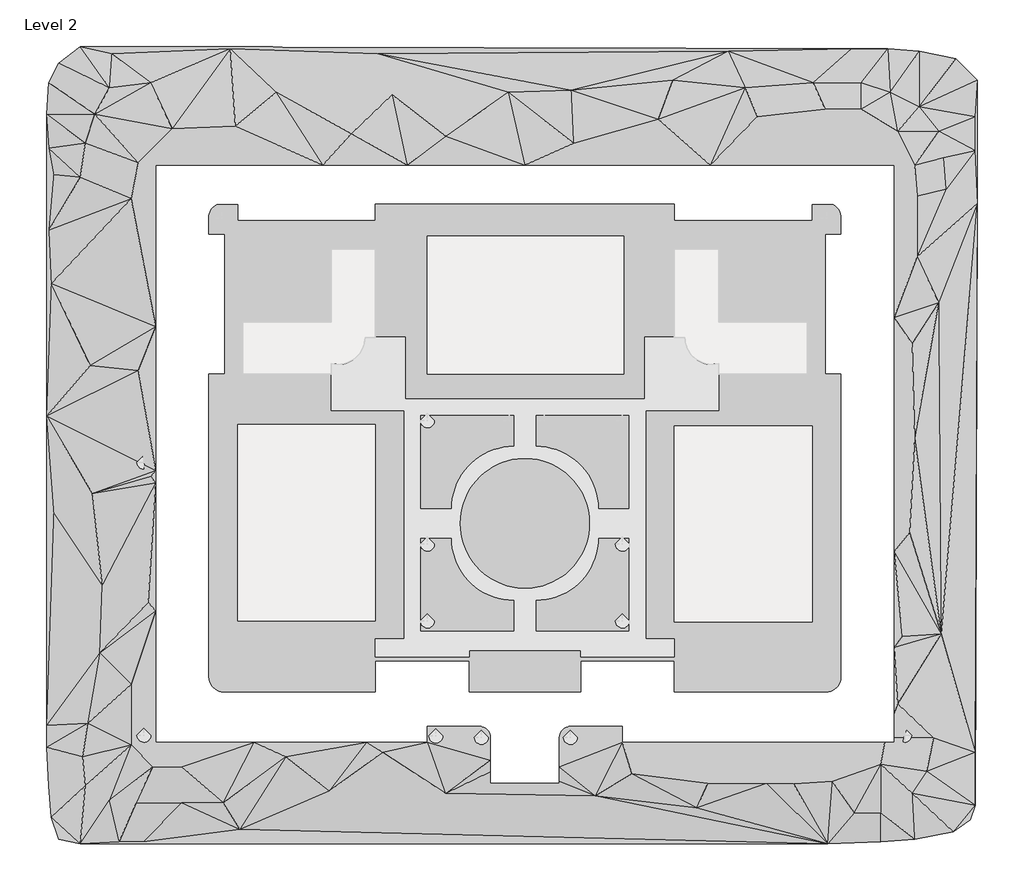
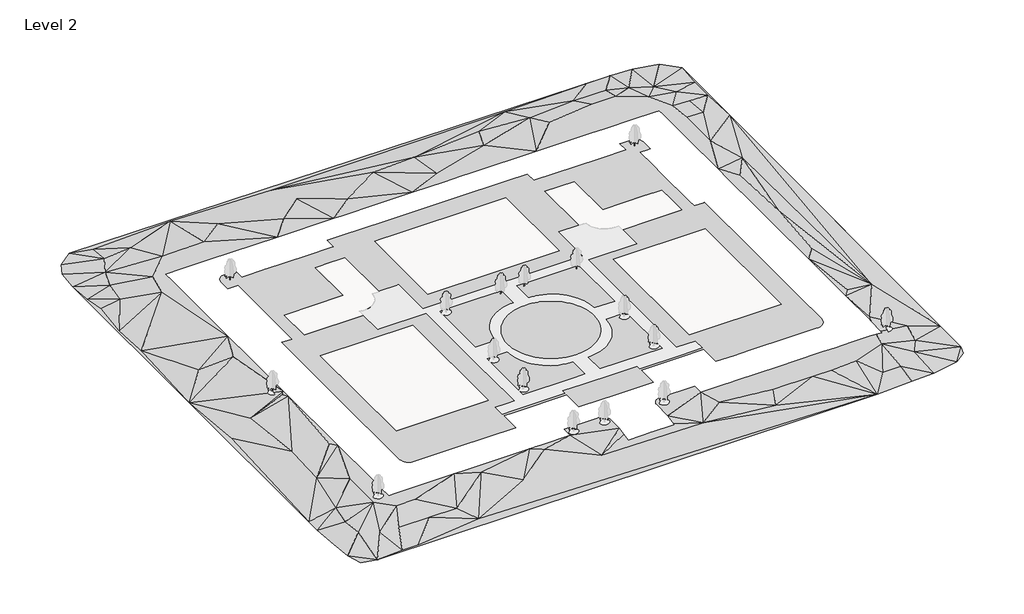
# One storey, part 2 of 3: 1 proxy.
"""IFC4 building model written with IfcOpenShell, lengths in millimetres."""

import ifcopenshell
import ifcopenshell.guid

model = None  # the IFC model being written
_history = None  # IfcOwnerHistory: only IFC2X3 demands one
_inside = {}  # id of a spatial element -> (the spatial element, [elements in it])
_under = {}  # id of a project, library or spatial element -> (it, [spatial elements below it])
_declared = {}  # id of a project -> (the project, [libraries it declares])
_typed = {}  # id of a type object -> (the type object, [elements of that type])
_made_of = {}  # id of a material, layer set ... -> (it, [elements and type objects made of it])


def new_model(schema):
    """Start an empty IFC model of exactly this schema.

    Asked for "IFC4X3", IfcOpenShell would pick the latest addendum, in which some entities
    have other attributes; the version numbers below select the first issue.
    IFC2X3 requires an IfcOwnerHistory on every rooted entity: one is made here for all.
    """
    global model, _history
    if schema == "IFC4X3":
        model = ifcopenshell.file(schema_version=(4, 3, 0, 0))
    else:
        model = ifcopenshell.file(schema=schema)
    _inside.clear()
    _under.clear()
    _declared.clear()
    _typed.clear()
    _made_of.clear()
    _history = None
    if model.schema == "IFC2X3":
        org = make("IfcOrganization", Name="unknown")
        user = make(
            "IfcPersonAndOrganization",
            ThePerson=make("IfcPerson", FamilyName="unknown"),
            TheOrganization=org,
        )
        app = make(
            "IfcApplication",
            ApplicationDeveloper=org,
            Version="unknown",
            ApplicationFullName="unknown",
            ApplicationIdentifier="unknown",
        )
        _history = make(
            "IfcOwnerHistory",
            OwningUser=user,
            OwningApplication=app,
            ChangeAction="ADDED",
            CreationDate=0,
        )
    return model


def make(cls, **values):
    """One entity of the class cls with the attributes given. An attribute that is None is left unset."""
    return model.create_entity(
        cls, **{name: value for name, value in values.items() if value is not None}
    )


def rooted(cls, **values):
    """An entity with a GlobalId (a new one), such as an element, a storey or a relation."""
    return make(cls, GlobalId=ifcopenshell.guid.new(), OwnerHistory=_history, **values)


def si_unit(unit_type, name, prefix=None):
    """IfcSIUnit, for example si_unit("LENGTHUNIT", "METRE", prefix="MILLI")."""
    return make("IfcSIUnit", UnitType=unit_type, Prefix=prefix, Name=name)


def assignment(units):
    """IfcUnitAssignment: the units of a project."""
    return None if units is None else make("IfcUnitAssignment", Units=units)


def point(xyz):
    """IfcCartesianPoint."""
    return None if xyz is None else make("IfcCartesianPoint", Coordinates=xyz)


def direction(xyz):
    """IfcDirection."""
    return None if xyz is None else make("IfcDirection", DirectionRatios=xyz)


def frame(location, z_axis=None, x_axis=None):
    """IfcAxis2Placement3D, a coordinate frame: its origin and axes. An axis left out is left unset."""
    return make(
        "IfcAxis2Placement3D",
        Location=point(location),
        Axis=direction(z_axis),
        RefDirection=direction(x_axis),
    )


def origin():
    """The frame at (0, 0, 0) with its axes left unset."""
    return frame((0.0, 0.0, 0.0))


def place(relative_to, where):
    """IfcLocalPlacement: puts the frame where relative to a parent placement (None: the world)."""
    return make(
        "IfcLocalPlacement", PlacementRelTo=relative_to, RelativePlacement=where
    )


def context(
    kind, dimensions, precision=None, world=None, true_north=None, identifier=None
):
    """IfcGeometricRepresentationContext, for example the 3D "Model" context."""
    return make(
        "IfcGeometricRepresentationContext",
        ContextIdentifier=identifier,
        ContextType=kind,
        CoordinateSpaceDimension=dimensions,
        Precision=precision,
        WorldCoordinateSystem=world,
        TrueNorth=true_north,
    )


def project(units=None, contexts=None):
    """IfcProject with its units and contexts."""
    return rooted(
        "IfcProject",
        Name="project",
        RepresentationContexts=contexts,
        UnitsInContext=assignment(units),
    )


def spatial(cls, under=None, at=None, **own):
    """A site, building, storey or space (cls), placed at a placement, below another one or the project."""
    s = rooted(cls, ObjectPlacement=at, **own)
    if under is not None:
        _under.setdefault(under.id(), (under, []))[1].append(s)
    return s


def point_list(points):
    """IfcCartesianPointList2D or 3D."""
    cls = (
        "IfcCartesianPointList2D" if len(points[0]) == 2 else "IfcCartesianPointList3D"
    )
    return make(cls, CoordList=points)


def triangles(points, corners, closed=None, point_numbers=None):
    """IfcTriangulatedFaceSet: each triangle names its three corners, points numbered from 1."""
    return make(
        "IfcTriangulatedFaceSet",
        Coordinates=point_list(points),
        Closed=closed,
        CoordIndex=corners,
        PnIndex=point_numbers,
    )


def shape(context_of_items, identifier, shape_type, items):
    """IfcShapeRepresentation: the items that make up one representation, for example the "Body"."""
    return make(
        "IfcShapeRepresentation",
        ContextOfItems=context_of_items,
        RepresentationIdentifier=identifier,
        RepresentationType=shape_type,
        Items=items,
    )


def made_of(thing, what):
    """Note that an element or type object is made of a material, layer set ...; save() writes the relation."""
    if what is not None:
        _made_of.setdefault(what.id(), (what, []))[1].append(thing)
    return thing


def element(
    cls,
    number,
    at=None,
    inside=None,
    cuts=None,
    type_object=None,
    material=None,
    context=None,
    identifier="Body",
    shape_type=None,
    held_by="IfcProductDefinitionShape",
    body=None,
    shapes=None,
    **own,
):
    """One element of the class cls, such as IfcWall. Its Tag is "e" and its number.

    at: its placement. inside: the storey or other place that contains it. cuts: it is an
    opening in that element (IfcRelVoidsElement). A single representation is given by context,
    identifier, shape_type and body (its items); several are given by shapes. held_by: the class
    of the entity that holds the representations. save() writes the other relations.
    """
    e = rooted(cls, Tag="e%d" % number, ObjectPlacement=at, **own)
    if body is not None:
        shapes = [shape(context, identifier, shape_type, body)]
    if shapes is not None:
        e.Representation = make(held_by, Representations=shapes)
    if inside is not None:
        _inside.setdefault(inside.id(), (inside, []))[1].append(e)
    if cuts is not None:
        rooted(
            "IfcRelVoidsElement", RelatingBuildingElement=cuts, RelatedOpeningElement=e
        )
    if type_object is not None:
        _typed.setdefault(type_object.id(), (type_object, []))[1].append(e)
    return made_of(e, material)


def aggregate(whole, parts):
    """IfcRelAggregates: a whole, such as a stair, and the parts it consists of."""
    return rooted("IfcRelAggregates", RelatingObject=whole, RelatedObjects=parts)


def save(model, path):
    """Write the relations noted so far, then the file.

    IfcRelAggregates (storeys below a building ...), IfcRelContainedInSpatialStructure (elements
    in a storey), IfcRelDefinesByType, IfcRelAssociatesMaterial and IfcRelDeclares: one each for
    every whole, place, type object, material and project.
    """
    for whole, parts in _under.values():
        aggregate(whole, parts)
    for where, things in _inside.values():
        rooted(
            "IfcRelContainedInSpatialStructure",
            RelatedElements=things,
            RelatingStructure=where,
        )
    for kind, things in _typed.values():
        rooted("IfcRelDefinesByType", RelatedObjects=things, RelatingType=kind)
    for what, things in _made_of.values():
        rooted("IfcRelAssociatesMaterial", RelatedObjects=things, RelatingMaterial=what)
    for by, libraries in _declared.values():
        rooted("IfcRelDeclares", RelatingContext=by, RelatedDefinitions=libraries)
    model.write(path)


model = new_model("IFC4")

# Units and contexts
model_context = context("Model", 3, world=origin())
ifc_project = project(units=[si_unit("LENGTHUNIT", "METRE", prefix="MILLI")], contexts=[model_context])

# Site, building, storey
site = spatial("IfcSite", under=ifc_project)
building = spatial("IfcBuilding", under=site)
storey = spatial("IfcBuildingStorey", under=building, Name="Level 2", Elevation=3048.0)

# Proxy
placement = place(None, origin())
element("IfcBuildingElementProxy", 1, Name="Building Element Proxy", at=placement, inside=storey, context=model_context, shape_type="Tessellation", body=[
    triangles([(164403.5649902, 10754.2040405, 0.0), (-24915.4652344, 11321.0275818, 0.0), (-30016.8747803, 7353.2639557, 0.0), (-32284.1689453, 2818.676207, 0.0), (-32850.9924866, -4550.0286667, 0.0), (-32850.9924866, -75402.9602783, 0.0), (-32850.9924866, -147956.3642578, 0.0), (-32850.9924866, -153057.7738037, 0.0), (-32284.1689453, -162126.9411621, 0.0), (-31717.3454041, -169495.644873, 0.0), (-30016.8747803, -174597.0637207, 0.0), (-24915.4652344, -175730.7061523, 0.0), (150232.9787842, -175730.7061523, 0.0), (162703.092041, -175163.8942383, 0.0), (170638.6262695, -174597.0637207, 0.0), (179707.8029297, -172896.5907715, 0.0), (183675.5607422, -170062.4753906, 0.0), (184809.2217773, -166661.5294922, 0.0), (185376.0336914, -25522.4956238, 0.0), (185376.0336914, 3385.4994576, 0.0), (180274.6334473, 8486.9104568, 0.0), (171772.2687012, 10187.3804993, 0.0), (-7266.3832123, -16496.7267792, 3048.0), (-1700.1292202, -16496.7267792, 3048.0), (7752.2936691, -16496.7267792, 3048.0), (31912.9892761, -16496.7267792, 3048.0), (51712.4900391, -16496.7267792, 3048.0), (54752.0068359, -16496.7267792, 3048.0), (59976.9251221, -16496.7267792, 3048.0), (61388.4761719, -16496.7267792, 3048.0), (79296.815625, -16496.7267792, 3048.0), (90194.0016357, -16496.7267792, 3048.0), (96662.5742432, -16496.7267792, 3048.0), (99394.528418, -16496.7267792, 3048.0), (122763.6229248, -16496.7267792, 3048.0), (141543.0999023, -16496.7267792, 3048.0), (146744.6149658, -16496.7267792, 3048.0), (156554.8533691, -16496.7267792, 3048.0), (163473.1845703, -16496.7267792, 3048.0), (165860.015625, -16496.7267792, 3048.0), (165860.015625, -18757.931781, 3048.0), (165860.015625, -21149.3090698, 3048.0), (165860.015625, -33295.1095642, 3048.0), (165860.015625, -52212.1944214, 3048.0), (165860.015625, -54667.816626, 3048.0), (165860.015625, -55901.2669189, 3048.0), (165860.015625, -76369.6873169, 3048.0), (165860.015625, -84338.7032227, 3048.0), (165860.015625, -86181.5209717, 3048.0), (165860.015625, -105780.0177246, 3048.0), (165860.015625, -107139.0231445, 3048.0), (165860.015625, -128452.2989502, 3048.0), (165860.015625, -129088.3810547, 3048.0), (165860.015625, -129619.7625732, 3048.0), (165860.015625, -143477.2330078, 3048.0), (165860.015625, -145125.318457, 3048.0), (165860.015625, -150790.4796387, 2776.0046837), (165860.015625, -151827.923291, 2746.1190079), (165096.5087402, -151827.923291, 2848.7607079), (163648.1134277, -151827.923291, 3048.0), (162568.7560547, -151827.923291, 3048.0), (161761.847168, -151827.923291, 3048.0), (154978.8007324, -151827.923291, 3048.0), (149476.9412109, -151827.923291, 3048.0), (144849.2236816, -151827.923291, 3048.0), (134905.5143555, -151827.923291, 3048.0), (129890.4716309, -151827.923291, 3048.0), (114348.815625, -151827.923291, 3048.0), (112904.9223633, -151827.923291, 3048.0), (110603.6953857, -151827.923291, 3048.0), (102156.815625, -151827.923291, 3048.0), (102156.815625, -148170.323291, 3048.0), (89964.815625, -148170.323291, 3048.0), (89460.2510742, -148220.022583, 3048.0), (88975.0806885, -148367.1949951, 3048.0), (88527.9358887, -148606.2036621, 3048.0), (88136.015625, -148927.8398438, 3048.0), (87814.3794434, -149319.7601074, 3048.0), (87575.3707764, -149766.9049072, 3048.0), (87428.1983643, -150252.075293, 3048.0), (87378.4990723, -150756.6398438, 3048.0), (87378.4990723, -157598.6594238, 3048.0), (87378.4990723, -161018.4692871, 2172.3091198), (87378.4990723, -161484.6175781, 2079.0257149), (79296.815625, -161484.6175781, 2052.9405338), (71215.1321777, -161484.6175781, 2026.8552074), (71215.1321777, -158752.4866699, 2573.6016312), (71215.1321777, -156099.1602539, 3048.0), (71215.1321777, -150756.6398438, 3048.0), (71165.4375366, -150252.075293, 3048.0), (71018.2604736, -149766.9049072, 3048.0), (70779.2564575, -149319.7601074, 3048.0), (70457.615625, -148927.8398438, 3048.0), (70065.6953613, -148606.2036621, 3048.0), (69618.5552124, -148367.1949951, 3048.0), (69133.3801758, -148220.022583, 3048.0), (68628.815625, -148170.323291, 3048.0), (56436.815625, -148170.323291, 3048.0), (56436.815625, -151827.923291, 3048.0), (46178.4510864, -151827.923291, 3048.0), (44244.815625, -151827.923291, 3048.0), (43947.1547241, -151827.923291, 3048.0), (42239.7426636, -151827.923291, 3048.0), (20149.888678, -151827.923291, 3048.0), (15803.962088, -151827.923291, 3048.0), (-4669.2658653, -151827.923291, 3048.0), (-7161.5361237, -151827.923291, 3048.0), (-7266.3832123, -151827.923291, 3048.0), (-7266.3832123, -151728.0689209, 3048.0), (-7266.3832123, -147623.0729736, 3048.0), (-7266.3832123, -141013.6996582, 3048.0), (-7266.3832123, -121044.7417969, 3048.0), (-7266.3832123, -120184.8407959, 3048.0), (-7266.3832123, -91011.8493896, 3048.0), (-7266.3832123, -88173.7156494, 3048.0), (-7266.3832123, -61543.5829834, 3048.0), (-7266.3832123, -60128.3019287, 3048.0), (-7266.3832123, -54418.8829834, 3048.0), (-7266.3832123, -20380.1606689, 3048.0), (44244.815625, -77359.8175781, 3048.0), (11936.0167877, -77359.8175781, 3048.0), (11936.0167877, -113814.6993896, 3048.0), (11936.0167877, -123384.6175781, 3048.0), (19994.895813, -123384.6175781, 3048.0), (44244.815625, -123384.6175781, 3048.0), (102461.615625, -65472.6175781, 3048.0), (102461.615625, -33163.8175781, 3048.0), (88501.2491455, -33163.8175781, 3048.0), (63125.9747681, -33163.8175781, 3048.0), (58277.5358276, -33163.8175781, 3048.0), (56436.815625, -33163.8175781, 3048.0), (56436.815625, -51217.0272583, 3048.0), (56436.815625, -65472.6175781, 3048.0), (66494.0715088, -65472.6175781, 3048.0), (85219.8866455, -65472.6175781, 3048.0), (114348.815625, -123689.4175781, 3048.0), (116818.4602295, -123689.4175781, 3048.0), (134288.6217773, -123689.4175781, 3048.0), (145264.2123047, -123689.4175781, 3048.0), (146657.615625, -123689.4175781, 3048.0), (146657.615625, -122477.7613037, 3048.0), (146657.615625, -108994.6308105, 3048.0), (146657.615625, -99746.6185547, 3048.0), (146657.615625, -77664.6175781, 3048.0), (114348.815625, -77664.6175781, 3048.0), (44244.815625, -29473.4800415, 3048.0), (43523.8921875, -29473.4800415, 3048.0), (34722.3084961, -29473.4800415, 3048.0), (20260.3935608, -29473.4800415, 3048.0), (11936.0167877, -29473.4800415, 3048.0), (11936.0167877, -25815.8800415, 3048.0), (7059.2167877, -25815.8800415, 3048.0), (6578.3461395, -26094.2397949, 3048.0), (6152.981987, -26451.713324, 3048.0), (5795.9927307, -26877.4826843, 3048.0), (5518.1794556, -27358.6695923, 3048.0), (5327.9462997, -27880.7167969, 3048.0), (5231.0481445, -28427.8299133, 3048.0), (5230.4167877, -28983.4564636, 3048.0), (5230.4167877, -32641.0564636, 3048.0), (8888.0167877, -32641.0564636, 3048.0), (8888.0167877, -42138.1721191, 3048.0), (8888.0167877, -49205.1826172, 3048.0), (8888.0167877, -65472.6175781, 3048.0), (5230.4167877, -65472.6175781, 3048.0), (5230.4167877, -73730.6949097, 3048.0), (5230.4167877, -105851.7993896, 3048.0), (5230.4167877, -128172.4834717, 3048.0), (5230.4167877, -135076.2388184, 3048.0), (5230.4167877, -136596.9273926, 3048.0), (5272.8729172, -137136.3735352, 3048.0), (5399.1948578, -137662.5460693, 3048.0), (5606.2723343, -138162.469043, 3048.0), (5889.0062393, -138623.854834, 3048.0), (6240.4353699, -139035.3273926, 3048.0), (6651.9061844, -139386.7571045, 3048.0), (7113.2861618, -139669.4840332, 3048.0), (7613.2155304, -139876.5597656, 3048.0), (8139.3839951, -140002.8869385, 3048.0), (8678.8353699, -140045.3401611, 3048.0), (9656.0233978, -140045.3401611, 3048.0), (23805.6980896, -140045.3401611, 3048.0), (34024.9789673, -140045.3401611, 3048.0), (44244.815625, -140045.3401611, 3048.0), (44244.815625, -132730.1401611, 3048.0), (48125.676416, -132730.1401611, 3048.0), (66190.415625, -132730.1401611, 3048.0), (66190.415625, -140045.3401611, 3048.0), (74268.0621094, -140045.3401611, 3048.0), (77646.0931274, -140045.3401611, 3048.0), (79296.815625, -140045.3401611, 3048.0), (92403.215625, -140045.3401611, 3048.0), (92403.215625, -132730.1401611, 3048.0), (105551.2875, -132730.1401611, 3048.0), (114348.815625, -132730.1401611, 3048.0), (114348.815625, -140045.3401611, 3048.0), (120521.4062988, -140045.3401611, 3048.0), (126454.8952881, -140045.3401611, 3048.0), (139374.1253174, -140045.3401611, 3048.0), (149914.8028564, -140045.3401611, 3048.0), (150454.248999, -140002.8869385, 3048.0), (150615.867041, -139964.0893066, 3048.0), (150980.4215332, -139876.5597656, 3048.0), (151480.3445068, -139669.4840332, 3048.0), (151941.7302979, -139386.7571045, 3048.0), (152353.2028564, -139035.3273926, 3048.0), (152704.6232666, -138623.854834, 3048.0), (152975.0997803, -138182.4864258, 3048.0), (152987.3594971, -138162.469043, 3048.0), (153194.4352295, -137662.5460693, 3048.0), (153320.7624023, -137136.3735352, 3048.0), (153363.215625, -136596.9273926, 3048.0), (153363.215625, -122665.1638184, 3048.0), (153363.215625, -116646.8055908, 3048.0), (153363.215625, -101028.1496338, 3048.0), (153363.215625, -94366.0818604, 3048.0), (153363.215625, -65556.8542969, 3048.0), (153363.215625, -65472.6175781, 3048.0), (153265.8634277, -65472.6175781, 3048.0), (149705.615625, -65472.6175781, 3048.0), (149705.615625, -62392.1218872, 3048.0), (149705.615625, -46324.0189453, 3048.0), (149705.615625, -40359.6341675, 3048.0), (149705.615625, -32641.0564636, 3048.0), (152534.9871094, -32641.0564636, 3048.0), (153363.215625, -32641.0564636, 3048.0), (153363.215625, -28983.4564636, 3048.0), (153362.5831055, -28427.8299133, 3048.0), (153265.6866943, -27880.7167969, 3048.0), (153075.4564453, -27358.6695923, 3048.0), (152797.6408447, -26877.4826843, 3048.0), (152440.6486816, -26451.713324, 3048.0), (152015.2885986, -26094.2397949, 3048.0), (151534.415625, -25815.8800415, 3048.0), (147888.0614502, -25815.8800415, 3048.0), (146657.615625, -25815.8800415, 3048.0), (146657.615625, -29473.4800415, 3048.0), (137414.8030518, -29473.4800415, 3048.0), (121283.0249268, -29473.4800415, 3048.0), (114348.815625, -29473.4800415, 3048.0), (114348.815625, -25640.7256165, 3048.0), (107230.645459, -25640.7256165, 3048.0), (89265.3141357, -25640.7256165, 3048.0), (79296.815625, -25640.7256165, 3048.0), (62341.7156616, -25640.7256165, 3048.0), (59044.5959839, -25640.7256165, 3048.0), (46840.1734863, -25640.7256165, 3048.0), (44244.815625, -25640.7256165, 3048.0), (44244.815625, -28640.2797363, 3048.0), (145438.415625, -53280.6175781, 3048.0), (145438.415625, -58699.9333008, 3048.0), (145438.415625, -65472.6175781, 3048.0), (124712.015625, -65472.6175781, 3048.0), (124712.015625, -74007.0175781, 3048.0), (107643.215625, -74007.0175781, 3048.0), (107643.215625, -125158.2488525, 3048.0), (107643.215625, -127596.6488525, 3048.0), (111948.9993164, -127596.6488525, 3048.0), (114348.815625, -127596.6488525, 3048.0), (114348.815625, -131815.7401611, 3048.0), (106690.8737549, -131815.7401611, 3048.0), (92403.215625, -131815.7401611, 3048.0), (92403.215625, -130291.7401611, 3048.0), (79296.815625, -130291.7401611, 3048.0), (78636.6977783, -130291.7401611, 3048.0), (73251.2776611, -130291.7401611, 3048.0), (66190.415625, -130291.7401611, 3048.0), (66190.415625, -131815.7401611, 3048.0), (48218.9079346, -131815.7401611, 3048.0), (44244.815625, -131815.7401611, 3048.0), (44244.815625, -127596.6488525, 3048.0), (48649.090979, -127596.6488525, 3048.0), (50950.415625, -127596.6488525, 3048.0), (50950.415625, -125158.2488525, 3048.0), (50950.415625, -105025.952124, 3048.0), (50950.415625, -74007.0175781, 3048.0), (33881.6179504, -74007.0175781, 3048.0), (33881.6179504, -65472.6175781, 3048.0), (13155.2167877, -65472.6175781, 3048.0), (13155.2167877, -64571.7004761, 3048.0), (13155.2167877, -53280.6175781, 3048.0), (22924.8099976, -53280.6175781, 3048.0), (33881.6179504, -53280.6175781, 3048.0), (33881.6179504, -40617.4184326, 3048.0), (33881.6179504, -36211.8175781, 3048.0), (37693.5573669, -36211.8175781, 3048.0), (44244.815625, -36211.8175781, 3048.0), (44244.815625, -56796.8169067, 3048.0), (51255.215625, -56796.8169067, 3048.0), (51255.215625, -71375.9223633, 3048.0), (54381.4015503, -71375.9223633, 3048.0), (67109.4758057, -71375.9223633, 3048.0), (79296.815625, -71375.9223633, 3048.0), (84620.3325439, -71375.9223633, 3048.0), (107338.415625, -71375.9223633, 3048.0), (107338.415625, -56796.8169067, 3048.0), (114348.815625, -56796.8169067, 3048.0), (114348.815625, -36211.8175781, 3048.0), (119448.0485596, -36211.8175781, 3048.0), (124712.015625, -36211.8175781, 3048.0), (124712.015625, -40766.4558472, 3048.0), (124712.015625, -53280.6175781, 3048.0), (139175.1049072, -53280.6175781, 3048.0), (118986.5232422, -61651.1531616, 3048.0), (118448.2398193, -61123.6086182, 3048.0), (118965.1012939, -61672.533252, 3048.0), (119562.3299561, -62161.4010864, 3048.0), (120217.7039063, -62569.0366699, 3048.0), (120920.2284668, -62888.621814, 3048.0), (121658.1462158, -63114.7940552, 3048.0), (122419.0951172, -63243.7629272, 3048.0), (123190.3317627, -63273.3797241, 3048.0), (123958.926709, -63203.1375, 3048.0), (124712.015625, -63034.2175781, 3048.0), (123959.9219971, -63172.3579834, 3048.0), (123196.7127686, -63219.7643921, 3048.0), (122433.2989014, -63175.7484741, 3048.0), (121680.6006592, -63040.9473999, 3048.0), (120949.3615723, -62817.2819824, 3048.0), (120250.0368164, -62507.9566772, 3048.0), (119592.6257813, -62117.3851685, 3048.0), (118436.0080078, -61110.6233643, 3048.0), (118436.9195801, -61111.5860962, 3048.0), (118434.7801758, -61108.9211426, 3048.0), (33881.6179504, -63034.2175781, 3048.0), (34634.7068665, -63203.1375, 3048.0), (35403.3041382, -63273.3797241, 3048.0), (36174.5384583, -63243.7629272, 3048.0), (36935.4873596, -63114.7940552, 3048.0), (37673.4051086, -62888.621814, 3048.0), (38375.9319946, -62569.0366699, 3048.0), (39031.3012939, -62161.4010864, 3048.0), (39628.5299561, -61672.533252, 3048.0), (40145.3960815, -61123.6086182, 3048.0), (39607.1080078, -61651.1531616, 3048.0), (39001.0054688, -62117.3851685, 3048.0), (38343.596759, -62507.9566772, 3048.0), (37644.2743286, -62817.2819824, 3048.0), (36913.0375671, -63040.9473999, 3048.0), (36160.3346741, -63175.7484741, 3048.0), (35396.9231323, -63219.7643921, 3048.0), (34633.7139038, -63172.3579834, 3048.0), (40157.6232422, -61110.6233643, 3048.0), (40158.8510742, -61108.9211426, 3048.0), (40156.7163208, -61111.5860962, 3048.0), (64056.815625, -100524.6175781, 3048.0), (64106.2358643, -101750.9241211, 3048.0), (64254.1710205, -102969.2869629, 3048.0), (64499.6630127, -104171.7903076, 3048.0), (64841.1212402, -105350.6392822, 3048.0), (65276.3318848, -106498.1878418, 3048.0), (65802.4672119, -107606.9945801, 3048.0), (66416.1181274, -108669.87854, 3048.0), (67113.3081299, -109679.9285156, 3048.0), (67889.5119141, -110630.6053711, 3048.0), (68739.697229, -111515.742041, 3048.0), (69658.3481323, -112329.5993408, 3048.0), (70639.511499, -113066.8938721, 3048.0), (71513.2349121, -113619.3996826, 3048.0), (71676.815625, -113722.8445312, 3048.0), (72763.5446411, -114293.200415, 3048.0), (73892.6385132, -114774.2594238, 3048.0), (75056.7814087, -115162.9147705, 3048.0), (76248.4249512, -115456.6270752, 3048.0), (77459.8393799, -115653.4987793, 3048.0), (78683.1600586, -115752.255542, 3048.0), (79910.4711914, -115752.255542, 3048.0), (80115.0354492, -115735.7449219, 3048.0), (81133.7918701, -115653.4987793, 3048.0), (82345.2062988, -115456.6270752, 3048.0), (83536.8544922, -115162.9147705, 3048.0), (84700.9973877, -114774.2594238, 3048.0), (85830.0912598, -114293.200415, 3048.0), (86916.815625, -113722.8445312, 3048.0), (87954.119751, -113066.8938721, 3048.0), (88935.2877686, -112329.5993408, 3048.0), (89853.9386719, -111515.742041, 3048.0), (90704.1193359, -110630.6053711, 3048.0), (91480.3231201, -109679.9285156, 3048.0), (92177.5177734, -108669.87854, 3048.0), (92791.1640381, -107606.9945801, 3048.0), (93317.2993652, -106498.1878418, 3048.0), (93752.5100098, -105350.6392822, 3048.0), (94093.9682373, -104171.7903076, 3048.0), (94339.4602295, -102969.2869629, 3048.0), (94487.3953857, -101750.9241211, 3048.0), (94536.815625, -100524.6175781, 3048.0), (94487.3953857, -99298.3017334, 3048.0), (94339.4602295, -98079.9481934, 3048.0), (94093.9682373, -96877.4448486, 3048.0), (93752.5100098, -95698.595874, 3048.0), (93317.2993652, -94551.0473145, 3048.0), (92791.1640381, -93442.2312744, 3048.0), (92177.5177734, -92379.3566162, 3048.0), (91480.3231201, -91369.3066406, 3048.0), (90704.1193359, -90418.6297852, 3048.0), (89853.9386719, -89533.4931152, 3048.0), (88935.2877686, -88719.6358154, 3048.0), (87954.119751, -87982.3412842, 3048.0), (86916.815625, -87326.390625, 3048.0), (85830.0912598, -86756.0347412, 3048.0), (84700.9973877, -86274.9664307, 3048.0), (83536.8544922, -85886.3203857, 3048.0), (83156.1521484, -85792.4842529, 3048.0), (82345.2062988, -85592.6080811, 3048.0), (81133.7918701, -85395.736377, 3048.0), (79910.4711914, -85296.9796143, 3048.0), (78683.1600586, -85296.9796143, 3048.0), (77459.8393799, -85395.736377, 3048.0), (76248.4249512, -85592.6080811, 3048.0), (75056.7814087, -85886.3203857, 3048.0), (73892.6385132, -86274.9664307, 3048.0), (72763.5446411, -86756.0347412, 3048.0), (71676.815625, -87326.390625, 3048.0), (70639.511499, -87982.3412842, 3048.0), (69658.3481323, -88719.6358154, 3048.0), (68980.1430176, -89320.4735596, 3048.0), (68739.697229, -89533.4931152, 3048.0), (67889.5119141, -90418.6297852, 3048.0), (67113.3081299, -91369.3066406, 3048.0), (66416.1181274, -92379.3566162, 3048.0), (65802.4672119, -93442.2312744, 3048.0), (65276.3318848, -94551.0473145, 3048.0), (64841.1212402, -95698.595874, 3048.0), (64499.6630127, -96877.4448486, 3048.0), (64254.1710205, -98079.9481934, 3048.0), (64106.2358643, -99298.3017334, 3048.0), (81849.3667969, -75146.6084839, 3048.0), (81849.3667969, -82461.803833, 3048.0), (83057.5349121, -82511.772876, 3048.0), (83483.9460937, -82564.9324219, 3048.0), (84257.4523682, -82661.3451416, 3048.0), (85440.9243164, -82909.4974365, 3048.0), (86599.8489258, -83254.5182373, 3048.0), (87726.3383057, -83694.0728027, 3048.0), (88812.6719971, -84225.156665, 3048.0), (89851.436499, -84844.1235352, 3048.0), (90835.5438721, -85546.7690186, 3048.0), (91758.2689453, -86328.2748047, 3048.0), (92613.305127, -87183.3016846, 3048.0), (93394.8109131, -88106.0267578, 3048.0), (94097.4470947, -89090.1341309, 3048.0), (94716.4232666, -90128.9079346, 3048.0), (95247.4978271, -91215.241626, 3048.0), (95687.0523926, -92341.7217041, 3048.0), (96032.0824951, -93500.6556152, 3048.0), (96280.23479, -94684.1182617, 3048.0), (96429.7977539, -95884.0357178, 3048.0), (96479.7667969, -97092.203833, 3048.0), (103794.9667969, -97092.203833, 3048.0), (103794.9667969, -75146.6084839, 3048.0), (84237.369873, -75146.6084839, 3048.0), (76744.2644531, -75146.6084839, 3048.0), (67502.5587891, -75146.6084839, 3048.0), (54798.6644531, -75146.6084839, 3048.0), (54798.6644531, -97092.203833, 3048.0), (62113.8644531, -97092.203833, 3048.0), (62163.8334961, -95884.0357178, 3048.0), (62313.4057617, -94684.1182617, 3048.0), (62561.5487549, -93500.6556152, 3048.0), (62906.5788574, -92341.7217041, 3048.0), (63346.1334229, -91215.241626, 3048.0), (63877.2126343, -90128.9079346, 3048.0), (64496.1841553, -89090.1341309, 3048.0), (65198.8249878, -88106.0267578, 3048.0), (65980.3307739, -87183.3016846, 3048.0), (66835.3623047, -86328.2748047, 3048.0), (67758.0873779, -85546.7690186, 3048.0), (68529.3379761, -84996.1049561, 3048.0), (68742.194751, -84844.1235352, 3048.0), (69780.9639038, -84225.156665, 3048.0), (70867.2975952, -83694.0728027, 3048.0), (71993.7823242, -83254.5182373, 3048.0), (73152.7115845, -82909.4974365, 3048.0), (74336.1788818, -82661.3451416, 3048.0), (75536.0963379, -82511.772876, 3048.0), (76744.2644531, -82461.803833, 3048.0), (76744.2644531, -125902.6220215, 3048.0), (76744.2644531, -118587.4220215, 3048.0), (75536.0963379, -118537.4529785, 3048.0), (74336.1788818, -118387.8900146, 3048.0), (73152.7115845, -118139.7377197, 3048.0), (71993.7823242, -117794.7076172, 3048.0), (71946.5805542, -117776.2901367, 3048.0), (70867.2975952, -117355.1530518, 3048.0), (69780.9639038, -116824.0784912, 3048.0), (68742.194751, -116205.1023193, 3048.0), (67758.0873779, -115502.4661377, 3048.0), (66835.3623047, -114720.9603516, 3048.0), (65980.3307739, -113865.9241699, 3048.0), (65198.8249878, -112943.2083984, 3048.0), (64496.1841553, -111959.1010254, 3048.0), (63877.2126343, -110920.3272217, 3048.0), (63346.1334229, -109833.9935303, 3048.0), (62906.5788574, -108707.5134521, 3048.0), (62561.5487549, -107548.579541, 3048.0), (62313.4057617, -106365.1075928, 3048.0), (62163.8334961, -105165.1994385, 3048.0), (62113.8644531, -103957.0220215, 3048.0), (54798.6644531, -103957.0220215, 3048.0), (54798.6644531, -125902.6220215, 3048.0), (72793.7288452, -125902.6220215, 3048.0), (81849.3667969, -125902.6220215, 3048.0), (103794.9667969, -125902.6220215, 3048.0), (103794.9667969, -103957.0220215, 3048.0), (96479.7667969, -103957.0220215, 3048.0), (96429.7977539, -105165.1994385, 3048.0), (96280.23479, -106365.1075928, 3048.0), (96032.0824951, -107548.579541, 3048.0), (95687.0523926, -108707.5134521, 3048.0), (95247.4978271, -109833.9935303, 3048.0), (94716.4232666, -110920.3272217, 3048.0), (94097.4470947, -111959.1010254, 3048.0), (93394.8109131, -112943.2083984, 3048.0), (92613.305127, -113865.9241699, 3048.0), (91758.2689453, -114720.9603516, 3048.0), (90835.5438721, -115502.4661377, 3048.0), (89851.436499, -116205.1023193, 3048.0), (88812.6719971, -116824.0784912, 3048.0), (87726.3383057, -117355.1530518, 3048.0), (86599.8489258, -117794.7076172, 3048.0), (85440.9243164, -118139.7377197, 3048.0), (84257.4523682, -118387.8900146, 3048.0), (83057.5349121, -118537.4529785, 3048.0), (81849.3667969, -118587.4220215, 3048.0), (-17546.759198, 9620.5575394, 0.0), (10227.5896729, 10754.2040405, 0.0), (44803.8187134, 9620.5575394, 0.0), (126993.2252197, 10187.3804993, 0.0), (155901.2188477, 10754.2040405, 0.0), (184809.2217773, -5116.8522079, 0.0), (184809.2217773, -13052.3812042, 0.0), (184809.2217773, -154191.4162354, 0.0), (12494.8838379, -172329.7788574, 0.0), (-10178.0543243, -175163.8942383, 0.0), (-15846.2897369, -175163.8942383, 0.0), (-31150.5218628, -98075.9019287, 0.0), (-31717.3454041, -44227.6724854, 0.0), (-32284.1689453, -31757.5545776, 0.0), (-31150.5218628, -18720.6154541, 0.0), (-32284.1689453, -12485.557663, 0.0), (-24915.4652344, -19287.4389954, 1524.0), (-23781.8181519, -11351.9105804, 1524.0), (-21514.5239868, -4550.0286667, 1524.0), (-18113.5827393, 1685.0291245, 1524.0), (-8477.5842819, 2818.676207, 1524.0), (20997.2346313, 551.3822963, 1524.0), (48204.7599609, -15.4411723, 1524.0), (75412.2852905, 551.3822963, 1524.0), (90149.6973633, 1118.2057285, 1524.0), (113956.2814453, 3385.4994576, 1524.0), (130960.9830322, 1685.0291245, 1524.0), (146832.0421875, 2818.676207, 1524.0), (158168.5037109, 2818.676207, 1524.0), (164970.3955078, 551.3822963, 1524.0), (171772.2687012, -2849.5583336, 1524.0), (176306.8570312, -8517.7928741, 1524.0), (177440.4994629, -14752.8506653, 1524.0), (178007.3299805, -22121.5567017, 1524.0), (176306.8570312, -48762.2561646, 1524.0), (176873.6875488, -126417.0743408, 1524.0), (175173.2145996, -150790.4796387, 1524.0), (173472.7416504, -158726.0138672, 1524.0), (170071.795752, -163827.4141113, 1524.0), (162703.092041, -168362.0024414, 1524.0), (156468.0493652, -168362.0024414, 1524.0), (119624.512207, -167228.3600098, 1524.0), (95817.928125, -164394.2446289, 1524.0), (60674.8778687, -163827.4141113, 1524.0), (33467.3502136, -163260.6021973, 1524.0), (8527.1190491, -166094.7175781, 1524.0), (-1108.8795536, -166094.7175781, 1524.0), (-11878.5249481, -166094.7175781, 1524.0), (-18113.5827393, -165527.8870605, 1524.0), (-23781.8181519, -162126.9411621, 1524.0), (-24348.6416931, -155325.0679687, 1524.0), (-23214.9946106, -147389.543042, 1524.0), (-20380.8769043, -130951.6626709, 1524.0), (-19814.053363, -115080.6035156, 1524.0), (-22081.3475281, -93541.3135986, 1524.0), (-22648.1710693, -63499.6682373, 1524.0), (-13012.1720306, -24388.8508667, 3048.0), (-11311.7014069, -15886.4977478, 3048.0), (-3376.1732826, -7950.9693329, 3048.0), (11361.2367554, -7384.1457916, 3048.0), (38568.762085, -9084.6164154, 3048.0), (60674.8778687, -9651.4399567, 3048.0), (90716.5185791, -11351.9105804, 3048.0), (110555.3448486, -5683.6757492, 3048.0), (133795.0984131, -5116.8522079, 3048.0), (149666.1575684, -3416.3818748, 3048.0), (158168.5037109, -3416.3818748, 3048.0), (166670.868457, -8517.7928741, 3048.0), (170638.6262695, -16453.3212891, 3048.0), (171205.4567871, -23822.0273254, 3048.0), (171205.4567871, -37992.6135315, 3048.0), (170071.795752, -58398.2586914, 3048.0), (170638.6262695, -80504.3698242, 3048.0), (169504.9838379, -102610.4902588, 3048.0), (167804.5108887, -126983.8955566, 3048.0), (166670.868457, -142854.9547119, 3048.0), (162703.092041, -157025.540918, 3048.0), (151366.6305176, -160993.2987305, 3048.0), (142297.4538574, -161560.129248, 3048.0), (104320.2835693, -159292.8257812, 3048.0), (45937.4657959, -154191.4162354, 3048.0), (23264.5287964, -155325.0679687, 3048.0), (-1108.8795536, -157592.352832, 3048.0), (-7910.7607407, -157592.352832, 3048.0), (-13012.1720306, -152490.9525879, 3048.0), (-13012.1720306, -146255.8913086, 3048.0), (-13012.1720306, -138320.3663818, 3048.0), (-9044.4078232, -119048.3706299, 3048.0), (-8477.5842819, -89573.5464844, 3048.0), (-11311.7014069, -64633.3153198, 3048.0), (122117.913501, -161484.6175781, 3048.0), (135926.6799316, -161484.6175781, 3048.0)], [[11, 12, 10], [575, 9, 10], [10, 12, 575], [536, 535, 573], [535, 536, 12], [610, 575, 574], [575, 12, 574], [573, 574, 536], [609, 574, 573], [573, 572, 609], [574, 12, 536], [12, 13, 535], [9, 575, 576], [8, 576, 577], [576, 8, 9], [8, 577, 7], [577, 576, 610], [577, 610, 611], [577, 578, 7], [575, 610, 576], [109, 610, 108], [108, 609, 107], [610, 110, 611], [610, 109, 110], [611, 110, 111], [108, 610, 609], [574, 609, 610], [611, 612, 577], [573, 535, 572], [106, 609, 608], [608, 572, 571], [107, 609, 106], [106, 608, 105], [608, 609, 572], [571, 534, 607], [534, 571, 572], [103, 607, 570], [570, 607, 534], [606, 570, 569], [607, 105, 571], [534, 569, 570], [608, 571, 105], [572, 535, 534], [606, 103, 570], [105, 607, 104], [170, 180, 181], [103, 606, 102], [101, 102, 606], [104, 607, 103], [606, 100, 101], [124, 181, 182], [535, 13, 534], [111, 612, 611], [171, 178, 170], [171, 172, 177], [177, 172, 176], [173, 174, 175], [173, 175, 176], [172, 173, 176], [170, 179, 180], [578, 613, 579], [613, 578, 112], [537, 579, 580], [579, 537, 578], [579, 114, 580], [537, 580, 6], [114, 579, 613], [578, 537, 7], [112, 612, 111], [123, 168, 169], [112, 113, 613], [167, 168, 122], [112, 578, 612], [113, 114, 613], [171, 177, 178], [612, 578, 577], [183, 184, 185], [170, 181, 169], [124, 123, 181], [185, 270, 183], [124, 182, 183], [270, 186, 269], [186, 270, 185], [271, 272, 125], [187, 269, 186], [270, 271, 183], [271, 124, 183], [123, 169, 181], [273, 274, 272], [124, 271, 125], [120, 125, 275], [274, 125, 272], [122, 168, 123], [494, 501, 493], [274, 275, 125], [122, 121, 167], [268, 269, 187], [170, 178, 179], [100, 606, 99], [7, 537, 6], [97, 89, 90], [569, 99, 606], [97, 93, 94], [99, 88, 97], [95, 97, 94], [87, 569, 86], [90, 91, 97], [93, 97, 92], [92, 97, 91], [99, 569, 88], [569, 85, 86], [502, 486, 487], [267, 268, 266], [189, 187, 188], [97, 98, 99], [502, 487, 501], [485, 486, 502], [268, 187, 266], [95, 96, 97], [501, 487, 488], [87, 88, 569], [266, 187, 189], [88, 89, 97], [191, 265, 190], [265, 191, 264], [190, 265, 189], [189, 265, 266], [502, 481, 482], [481, 502, 480], [483, 484, 502], [482, 483, 502], [484, 485, 502], [478, 479, 480], [368, 364, 365], [478, 480, 502], [365, 366, 368], [496, 500, 495], [498, 500, 497], [497, 500, 496], [493, 501, 492], [348, 349, 359], [501, 494, 500], [500, 494, 495], [458, 459, 456], [458, 456, 457], [347, 417, 346], [346, 417, 427], [426, 427, 417], [425, 426, 417], [347, 348, 417], [350, 359, 349], [499, 500, 498], [489, 501, 488], [357, 358, 359], [490, 501, 489], [363, 368, 359], [363, 359, 362], [359, 361, 362], [359, 360, 361], [364, 368, 363], [352, 359, 351], [350, 351, 359], [425, 417, 424], [352, 353, 359], [357, 359, 356], [356, 359, 355], [359, 354, 355], [353, 354, 359], [423, 424, 417], [348, 359, 417], [491, 501, 490], [501, 491, 492], [460, 456, 459], [417, 359, 368], [534, 568, 569], [614, 114, 115], [115, 580, 614], [615, 6, 115], [6, 580, 115], [614, 580, 114], [166, 121, 164], [166, 164, 165], [164, 121, 279], [164, 279, 280], [164, 281, 163], [121, 277, 279], [581, 615, 118], [615, 581, 6], [581, 118, 538], [118, 615, 117], [582, 538, 118], [615, 116, 117], [581, 538, 6], [615, 115, 116], [162, 163, 281], [162, 281, 282], [281, 164, 280], [6, 538, 539], [342, 326, 341], [325, 326, 342], [327, 328, 340], [340, 341, 327], [328, 339, 340], [327, 341, 326], [329, 339, 328], [282, 283, 284], [149, 282, 284], [338, 330, 337], [338, 339, 329], [331, 337, 330], [332, 337, 331], [329, 330, 338], [282, 149, 162], [277, 120, 276], [278, 279, 277], [167, 121, 166], [539, 542, 540], [542, 539, 582], [541, 540, 542], [540, 541, 539], [541, 542, 543], [539, 541, 5], [582, 119, 583], [582, 118, 119], [584, 583, 23], [23, 583, 119], [543, 542, 583], [582, 583, 542], [538, 582, 539], [24, 584, 23], [4, 5, 544], [543, 5, 541], [4, 545, 3], [2, 3, 545], [543, 544, 5], [544, 584, 546], [544, 543, 583], [545, 546, 526], [546, 545, 544], [526, 546, 527], [526, 2, 545], [584, 527, 546], [545, 4, 544], [583, 584, 544], [2, 526, 527], [24, 25, 584], [539, 5, 6], [159, 152, 158], [157, 153, 156], [158, 152, 157], [159, 160, 161], [162, 149, 161], [161, 149, 150], [149, 285, 148], [152, 159, 150], [285, 286, 148], [161, 150, 159], [155, 156, 154], [154, 156, 153], [152, 153, 157], [584, 25, 585], [26, 585, 25], [527, 585, 547], [584, 585, 527], [547, 585, 26], [527, 547, 528], [26, 586, 547], [150, 151, 152], [149, 284, 285], [2, 527, 530], [148, 286, 147], [462, 456, 461], [462, 463, 455], [455, 456, 462], [420, 421, 417], [420, 417, 419], [418, 419, 417], [422, 417, 421], [464, 465, 455], [275, 276, 120], [465, 466, 455], [455, 463, 464], [467, 454, 455], [454, 468, 469], [468, 454, 467], [454, 469, 470], [467, 455, 466], [120, 277, 121], [416, 417, 415], [414, 415, 417], [417, 413, 414], [413, 417, 412], [411, 404, 410], [411, 412, 417], [409, 410, 404], [409, 404, 408], [472, 454, 471], [474, 453, 454], [474, 454, 473], [473, 454, 472], [476, 477, 453], [476, 453, 475], [475, 453, 474], [471, 454, 470], [422, 423, 417], [417, 404, 411], [336, 332, 335], [336, 337, 332], [335, 333, 334], [333, 335, 332], [343, 344, 345], [146, 147, 287], [247, 248, 249], [586, 26, 27], [249, 146, 247], [287, 288, 132], [286, 287, 147], [586, 548, 528], [548, 586, 27], [528, 548, 549], [146, 287, 131], [131, 247, 146], [586, 528, 547], [289, 132, 288], [290, 291, 133], [131, 287, 132], [132, 289, 133], [291, 292, 133], [131, 246, 247], [292, 293, 134], [128, 244, 129], [131, 130, 246], [134, 133, 292], [245, 130, 129], [587, 29, 30], [27, 28, 587], [587, 28, 29], [27, 587, 548], [244, 245, 129], [31, 549, 587], [549, 31, 588], [31, 587, 30], [246, 130, 245], [587, 549, 548], [135, 134, 293], [289, 290, 133], [528, 549, 550], [461, 456, 460], [527, 528, 529], [193, 264, 191], [73, 80, 81], [81, 82, 73], [83, 568, 82], [79, 80, 73], [78, 73, 77], [79, 73, 78], [83, 84, 568], [85, 568, 84], [525, 503, 524], [368, 369, 370], [368, 404, 417], [523, 524, 503], [521, 522, 503], [520, 521, 503], [523, 503, 522], [192, 193, 191], [368, 366, 367], [75, 76, 73], [73, 74, 75], [77, 73, 76], [568, 605, 71], [605, 568, 567], [73, 71, 72], [73, 82, 71], [568, 71, 82], [262, 264, 193], [262, 194, 261], [520, 503, 504], [504, 519, 520], [504, 518, 519], [517, 518, 504], [517, 504, 516], [194, 262, 193], [263, 264, 262], [605, 70, 71], [569, 568, 85], [371, 372, 368], [373, 368, 372], [373, 374, 368], [516, 504, 515], [375, 368, 374], [504, 514, 515], [375, 376, 368], [378, 368, 377], [368, 379, 380], [378, 379, 368], [381, 368, 380], [368, 382, 383], [391, 404, 390], [404, 389, 390], [404, 368, 383], [368, 381, 382], [376, 377, 368], [370, 371, 368], [513, 504, 512], [510, 511, 505], [511, 512, 504], [508, 509, 505], [507, 505, 506], [505, 507, 508], [509, 510, 505], [514, 504, 513], [386, 387, 404], [389, 404, 388], [387, 388, 404], [386, 404, 385], [404, 384, 385], [448, 449, 450], [447, 448, 450], [447, 450, 446], [255, 256, 145], [404, 383, 384], [511, 504, 505], [136, 145, 256], [392, 404, 391], [617, 13, 604], [13, 617, 567], [67, 616, 617], [617, 616, 567], [617, 604, 66], [616, 69, 605], [13, 566, 603], [566, 13, 14], [63, 602, 62], [603, 602, 63], [604, 603, 65], [603, 566, 602], [13, 603, 604], [567, 568, 13], [603, 63, 64], [69, 616, 68], [605, 69, 70], [616, 67, 68], [64, 65, 603], [198, 199, 138], [65, 66, 604], [617, 66, 67], [139, 199, 200], [605, 567, 616], [564, 565, 15], [565, 602, 566], [602, 564, 563], [564, 602, 565], [565, 14, 15], [62, 602, 61], [18, 564, 16], [18, 563, 564], [18, 16, 17], [563, 18, 533], [16, 564, 15], [602, 563, 58], [60, 602, 59], [55, 56, 601], [61, 602, 60], [563, 562, 58], [58, 59, 602], [562, 601, 56], [562, 57, 58], [561, 601, 562], [562, 56, 57], [562, 533, 561], [563, 533, 562], [18, 19, 533], [565, 566, 14], [55, 601, 54], [195, 196, 197], [195, 260, 261], [137, 259, 260], [195, 197, 260], [198, 138, 137], [202, 200, 201], [202, 203, 204], [202, 212, 200], [197, 198, 260], [212, 139, 200], [258, 136, 256], [136, 258, 259], [136, 259, 137], [260, 198, 137], [199, 139, 138], [214, 142, 141], [213, 141, 140], [215, 143, 142], [139, 212, 140], [205, 202, 204], [194, 195, 261], [206, 208, 202], [208, 212, 202], [207, 208, 206], [210, 208, 209], [211, 212, 208], [53, 54, 600], [211, 208, 210], [212, 213, 140], [214, 141, 213], [216, 143, 215], [50, 599, 49], [215, 142, 214], [52, 53, 600], [51, 561, 599], [561, 51, 600], [599, 561, 598], [51, 599, 50], [54, 561, 600], [51, 52, 600], [205, 206, 202], [54, 601, 561], [257, 258, 256], [533, 19, 561], [534, 13, 568], [143, 216, 144], [404, 405, 406], [406, 407, 404], [399, 404, 398], [400, 401, 404], [402, 403, 404], [404, 401, 402], [399, 400, 404], [408, 404, 407], [430, 431, 452], [430, 428, 429], [428, 430, 452], [431, 432, 452], [435, 436, 452], [433, 434, 452], [432, 433, 452], [435, 452, 434], [452, 436, 451], [394, 395, 404], [395, 396, 404], [396, 397, 404], [445, 450, 444], [443, 444, 451], [450, 445, 446], [398, 404, 397], [438, 439, 451], [437, 438, 451], [440, 451, 439], [441, 442, 451], [451, 442, 443], [145, 254, 255], [450, 451, 444], [441, 451, 440], [437, 451, 436], [394, 404, 393], [392, 393, 404], [135, 294, 126], [126, 296, 127], [243, 244, 128], [296, 298, 127], [298, 296, 297], [127, 298, 240], [296, 126, 295], [295, 126, 294], [128, 127, 243], [588, 31, 32], [589, 550, 588], [550, 549, 588], [33, 588, 32], [34, 588, 33], [589, 551, 550], [589, 552, 551], [589, 588, 34], [241, 242, 240], [243, 127, 242], [127, 240, 242], [550, 551, 529], [298, 299, 240], [293, 294, 135], [308, 309, 320], [307, 320, 321], [320, 307, 308], [307, 321, 304], [320, 309, 319], [311, 317, 318], [317, 311, 312], [319, 310, 318], [310, 319, 309], [318, 310, 311], [324, 322, 323], [299, 239, 240], [304, 306, 307], [239, 299, 300], [304, 305, 306], [35, 589, 34], [552, 589, 35], [316, 312, 313], [313, 315, 316], [314, 315, 313], [254, 144, 252], [254, 252, 253], [252, 144, 220], [144, 217, 220], [221, 252, 220], [303, 301, 302], [301, 238, 300], [303, 238, 301], [251, 221, 250], [223, 238, 303], [250, 222, 303], [238, 223, 237], [250, 221, 222], [252, 221, 251], [300, 238, 239], [48, 49, 598], [219, 217, 218], [219, 220, 217], [216, 217, 144], [47, 598, 597], [598, 47, 48], [46, 597, 45], [45, 597, 44], [598, 560, 597], [46, 47, 597], [49, 599, 598], [222, 223, 303], [225, 226, 227], [224, 225, 227], [223, 224, 237], [44, 560, 596], [560, 44, 597], [43, 44, 596], [43, 596, 595], [560, 19, 596], [224, 227, 237], [561, 560, 598], [145, 144, 254], [234, 237, 227], [235, 237, 234], [235, 236, 237], [233, 234, 229], [230, 233, 229], [232, 230, 231], [232, 233, 230], [229, 234, 228], [228, 234, 227], [590, 36, 591], [552, 529, 551], [35, 590, 552], [553, 552, 590], [553, 529, 552], [37, 591, 36], [35, 36, 590], [591, 38, 592], [38, 591, 37], [530, 553, 554], [591, 554, 553], [592, 554, 591], [553, 530, 529], [38, 593, 592], [591, 553, 590], [529, 530, 527], [41, 42, 594], [40, 593, 39], [594, 40, 41], [594, 593, 40], [42, 595, 594], [596, 559, 595], [42, 43, 595], [558, 559, 532], [558, 594, 559], [532, 559, 19], [558, 557, 594], [19, 20, 532], [559, 594, 595], [557, 558, 532], [593, 556, 555], [556, 593, 557], [554, 555, 1], [554, 592, 555], [22, 1, 555], [554, 1, 530], [555, 556, 22], [592, 593, 555], [531, 20, 556], [531, 557, 532], [21, 22, 556], [556, 20, 21], [531, 532, 20], [557, 531, 556], [593, 594, 557], [593, 38, 39], [19, 559, 596], [530, 1, 2], [561, 19, 560], [317, 312, 316], [550, 529, 528]], closed=False),
])

save(model, "model.ifc")
